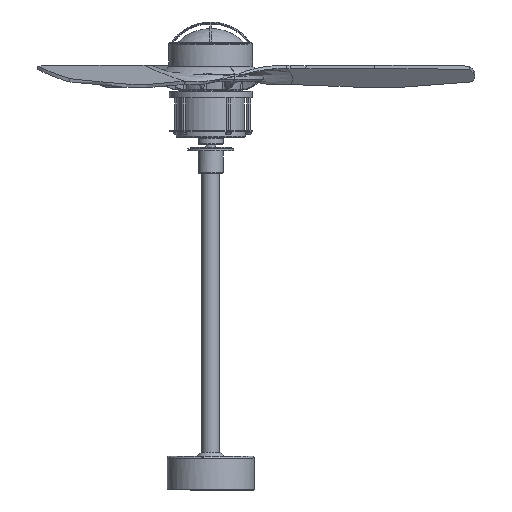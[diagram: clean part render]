
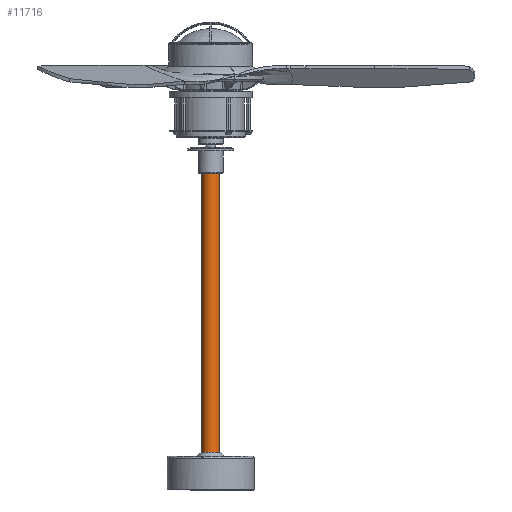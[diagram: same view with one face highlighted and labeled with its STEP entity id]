
A CAD part, left-side view. The second image highlights one B-rep face of the part: STEP entity #11716.
In plain terms, the highlighted cylindrical face has radius 13.263 mm (diameter 26.525 mm), a partial arc.
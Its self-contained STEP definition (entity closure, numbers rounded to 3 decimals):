
#419=CYLINDRICAL_SURFACE('',#12636,13.263);
#794=CIRCLE('',#12637,13.263);
#795=CIRCLE('',#12638,13.263);
#1687=FACE_OUTER_BOUND('',#2451,.T.);
#2451=EDGE_LOOP('',(#10113,#10114,#10115,#10116));
#3150=LINE('',#28632,#3779);
#3151=LINE('',#28635,#3780);
#3779=VECTOR('',#14835,304.8);
#3780=VECTOR('',#14838,304.8);
#5494=VERTEX_POINT('',#28628);
#5495=VERTEX_POINT('',#28629);
#5496=VERTEX_POINT('',#28631);
#5497=VERTEX_POINT('',#28633);
#7100=EDGE_CURVE('',#5496,#5494,#3150,.T.);
#7102=EDGE_CURVE('',#5495,#5497,#3151,.T.);
#7103=EDGE_CURVE('',#5495,#5494,#794,.T.);
#7104=EDGE_CURVE('',#5496,#5497,#795,.T.);
#10113=ORIENTED_EDGE('',*,*,#7103,.F.);
#10114=ORIENTED_EDGE('',*,*,#7102,.T.);
#10115=ORIENTED_EDGE('',*,*,#7104,.F.);
#10116=ORIENTED_EDGE('',*,*,#7100,.T.);
#11716=ADVANCED_FACE('',(#1687),#419,.T.);
#12636=AXIS2_PLACEMENT_3D('',#28636,#14839,#14840);
#12637=AXIS2_PLACEMENT_3D('',#28637,#14841,#14842);
#12638=AXIS2_PLACEMENT_3D('',#28638,#14843,#14844);
#14835=DIRECTION('',(0.,0.,1.));
#14838=DIRECTION('',(0.,0.,-1.));
#14839=DIRECTION('center_axis',(0.,0.,1.));
#14840=DIRECTION('ref_axis',(0.,1.,0.));
#14841=DIRECTION('center_axis',(0.,0.,1.));
#14842=DIRECTION('ref_axis',(0.,1.,0.));
#14843=DIRECTION('center_axis',(0.,0.,-1.));
#14844=DIRECTION('ref_axis',(0.,1.,0.));
#28628=CARTESIAN_POINT('',(0.,-13.263,474.493));
#28629=CARTESIAN_POINT('',(0.,13.263,474.493));
#28631=CARTESIAN_POINT('',(0.,-13.263,54.439));
#28632=CARTESIAN_POINT('',(0.,-13.263,54.439));
#28633=CARTESIAN_POINT('',(0.,13.263,54.439));
#28635=CARTESIAN_POINT('',(0.,13.263,474.493));
#28636=CARTESIAN_POINT('Origin',(0.,0.,1792.792));
#28637=CARTESIAN_POINT('Origin',(0.,0.,474.493));
#28638=CARTESIAN_POINT('Origin',(0.,0.,54.439));
